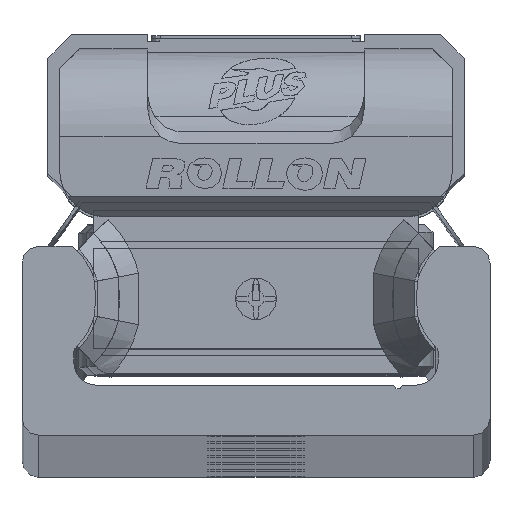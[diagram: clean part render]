
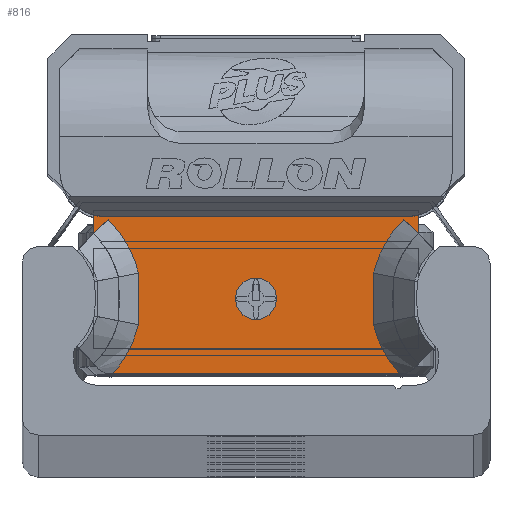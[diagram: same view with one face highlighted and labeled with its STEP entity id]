
A CAD part, top view. The second image highlights one B-rep face of the part: STEP entity #816.
In plain terms, the highlighted planar face has unit normal (0, 0, 1) as drawn and (0, 0, -1) by its records, which use the part's own axes.
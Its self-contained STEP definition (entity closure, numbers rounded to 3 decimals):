
#816 = ADVANCED_FACE( '', ( #2205, #2206 ), #2207, .F. );
#2205 = FACE_BOUND( '', #4452, .T. );
#2206 = FACE_OUTER_BOUND( '', #4453, .T. );
#2207 = PLANE( '', #4454 );
#4452 = EDGE_LOOP( '', ( #6809 ) );
#4453 = EDGE_LOOP( '', ( #6810, #6811, #6812, #6813, #6814, #6815, #6816, #6817, #6818, #6819, #6820, #6821, #6822, #6823 ) );
#4454 = AXIS2_PLACEMENT_3D( '', #6824, #6825, #6826 );
#6809 = ORIENTED_EDGE( '', *, *, #12511, .T. );
#6810 = ORIENTED_EDGE( '', *, *, #12512, .F. );
#6811 = ORIENTED_EDGE( '', *, *, #12513, .T. );
#6812 = ORIENTED_EDGE( '', *, *, #12514, .T. );
#6813 = ORIENTED_EDGE( '', *, *, #12515, .T. );
#6814 = ORIENTED_EDGE( '', *, *, #12516, .T. );
#6815 = ORIENTED_EDGE( '', *, *, #12517, .T. );
#6816 = ORIENTED_EDGE( '', *, *, #12518, .T. );
#6817 = ORIENTED_EDGE( '', *, *, #12519, .T. );
#6818 = ORIENTED_EDGE( '', *, *, #12520, .T. );
#6819 = ORIENTED_EDGE( '', *, *, #12521, .T. );
#6820 = ORIENTED_EDGE( '', *, *, #12522, .T. );
#6821 = ORIENTED_EDGE( '', *, *, #12480, .T. );
#6822 = ORIENTED_EDGE( '', *, *, #12523, .T. );
#6823 = ORIENTED_EDGE( '', *, *, #12524, .T. );
#6824 = CARTESIAN_POINT( '', ( 9.7, 4.89, -10.6 ) );
#6825 = DIRECTION( '', ( 0., 0., 1. ) );
#6826 = DIRECTION( '', ( 1., 0., 0. ) );
#12480 = EDGE_CURVE( '', #14697, #14695, #14698, .T. );
#12511 = EDGE_CURVE( '', #14752, #14752, #14753, .T. );
#12512 = EDGE_CURVE( '', #14754, #14755, #14756, .T. );
#12513 = EDGE_CURVE( '', #14754, #14757, #14758, .T. );
#12514 = EDGE_CURVE( '', #14757, #14759, #14760, .T. );
#12515 = EDGE_CURVE( '', #14759, #14761, #14762, .T. );
#12516 = EDGE_CURVE( '', #14761, #14763, #14764, .T. );
#12517 = EDGE_CURVE( '', #14763, #14765, #14766, .T. );
#12518 = EDGE_CURVE( '', #14765, #14767, #14768, .T. );
#12519 = EDGE_CURVE( '', #14767, #14769, #14770, .T. );
#12520 = EDGE_CURVE( '', #14769, #14771, #14772, .T. );
#12521 = EDGE_CURVE( '', #14771, #14773, #14774, .T. );
#12522 = EDGE_CURVE( '', #14773, #14697, #14775, .T. );
#12523 = EDGE_CURVE( '', #14695, #14776, #14777, .T. );
#12524 = EDGE_CURVE( '', #14776, #14755, #14778, .T. );
#14695 = VERTEX_POINT( '', #17991 );
#14697 = VERTEX_POINT( '', #17994 );
#14698 = B_SPLINE_CURVE_WITH_KNOTS( '', 2, ( #17995, #17996, #17997 ), .UNSPECIFIED., .F., .F., ( 3, 3 ), ( 0., 1. ), .UNSPECIFIED. );
#14752 = VERTEX_POINT( '', #18081 );
#14753 = CIRCLE( '', #18082, 1.25 );
#14754 = VERTEX_POINT( '', #18083 );
#14755 = VERTEX_POINT( '', #18084 );
#14756 = LINE( '', #18085, #18086 );
#14757 = VERTEX_POINT( '', #18087 );
#14758 = CIRCLE( '', #18088, 2.8 );
#14759 = VERTEX_POINT( '', #18089 );
#14760 = LINE( '', #18090, #18091 );
#14761 = VERTEX_POINT( '', #18092 );
#14762 = CIRCLE( '', #18093, 2.8 );
#14763 = VERTEX_POINT( '', #18094 );
#14764 = LINE( '', #18095, #18096 );
#14765 = VERTEX_POINT( '', #18097 );
#14766 = LINE( '', #18098, #18099 );
#14767 = VERTEX_POINT( '', #18100 );
#14768 = B_SPLINE_CURVE_WITH_KNOTS( '', 2, ( #18101, #18102, #18103, #18104, #18105 ), .UNSPECIFIED., .F., .F., ( 3, 2, 3 ), ( 0., 0.5, 1. ), .UNSPECIFIED. );
#14769 = VERTEX_POINT( '', #18106 );
#14770 = B_SPLINE_CURVE_WITH_KNOTS( '', 2, ( #18107, #18108, #18109 ), .UNSPECIFIED., .F., .F., ( 3, 3 ), ( 0., 1. ), .UNSPECIFIED. );
#14771 = VERTEX_POINT( '', #18110 );
#14772 = B_SPLINE_CURVE_WITH_KNOTS( '', 2, ( #18111, #18112, #18113 ), .UNSPECIFIED., .F., .F., ( 3, 3 ), ( 0., 1. ), .UNSPECIFIED. );
#14773 = VERTEX_POINT( '', #18114 );
#14774 = LINE( '', #18115, #18116 );
#14775 = B_SPLINE_CURVE_WITH_KNOTS( '', 2, ( #18117, #18118, #18119 ), .UNSPECIFIED., .F., .F., ( 3, 3 ), ( 0.1, 1. ), .UNSPECIFIED. );
#14776 = VERTEX_POINT( '', #18120 );
#14777 = B_SPLINE_CURVE_WITH_KNOTS( '', 2, ( #18121, #18122, #18123 ), .UNSPECIFIED., .F., .F., ( 3, 3 ), ( 0., 1. ), .UNSPECIFIED. );
#14778 = LINE( '', #18124, #18125 );
#17991 = CARTESIAN_POINT( '', ( -7.031, 1.144, -10.6 ) );
#17994 = CARTESIAN_POINT( '', ( -7.031, -1.944, -10.6 ) );
#17995 = CARTESIAN_POINT( '', ( -7.031, -1.944, -10.6 ) );
#17996 = CARTESIAN_POINT( '', ( -6.929, -0.4, -10.6 ) );
#17997 = CARTESIAN_POINT( '', ( -7.031, 1.144, -10.6 ) );
#18081 = CARTESIAN_POINT( '', ( 1.25, -0.39, -10.6 ) );
#18082 = AXIS2_PLACEMENT_3D( '', #22710, #22711, #22712 );
#18083 = CARTESIAN_POINT( '', ( -9.7, 4.612, -10.6 ) );
#18084 = CARTESIAN_POINT( '', ( -9.7, 3.494, -10.6 ) );
#18085 = CARTESIAN_POINT( '', ( -9.7, 4.89, -10.6 ) );
#18086 = VECTOR( '', #22713, 1000. );
#18087 = CARTESIAN_POINT( '', ( -8.95, 4.51, -10.6 ) );
#18088 = AXIS2_PLACEMENT_3D( '', #22714, #22715, #22716 );
#18089 = CARTESIAN_POINT( '', ( 8.95, 4.51, -10.6 ) );
#18090 = CARTESIAN_POINT( '', ( 9.7, 4.51, -10.6 ) );
#18091 = VECTOR( '', #22717, 1000. );
#18092 = CARTESIAN_POINT( '', ( 9.7, 4.612, -10.6 ) );
#18093 = AXIS2_PLACEMENT_3D( '', #22718, #22719, #22720 );
#18094 = CARTESIAN_POINT( '', ( 9.7, 3.497, -10.6 ) );
#18095 = CARTESIAN_POINT( '', ( 9.7, 4.89, -10.6 ) );
#18096 = VECTOR( '', #22721, 1000. );
#18097 = CARTESIAN_POINT( '', ( 8.853, 4.366, -10.6 ) );
#18098 = CARTESIAN_POINT( '', ( 9.7, 3.501, -10.6 ) );
#18099 = VECTOR( '', #22722, 1000. );
#18100 = CARTESIAN_POINT( '', ( 7.031, 1.144, -10.6 ) );
#18101 = CARTESIAN_POINT( '', ( 8.853, 4.366, -10.6 ) );
#18102 = CARTESIAN_POINT( '', ( 8.182, 3.708, -10.6 ) );
#18103 = CARTESIAN_POINT( '', ( 7.715, 2.883, -10.6 ) );
#18104 = CARTESIAN_POINT( '', ( 7.249, 2.058, -10.6 ) );
#18105 = CARTESIAN_POINT( '', ( 7.031, 1.144, -10.6 ) );
#18106 = CARTESIAN_POINT( '', ( 7.031, -1.944, -10.6 ) );
#18107 = CARTESIAN_POINT( '', ( 7.031, 1.144, -10.6 ) );
#18108 = CARTESIAN_POINT( '', ( 6.929, -0.4, -10.6 ) );
#18109 = CARTESIAN_POINT( '', ( 7.031, -1.944, -10.6 ) );
#18110 = CARTESIAN_POINT( '', ( 8.59, -4.893, -10.6 ) );
#18111 = CARTESIAN_POINT( '', ( 7.031, -1.944, -10.6 ) );
#18112 = CARTESIAN_POINT( '', ( 7.429, -3.615, -10.6 ) );
#18113 = CARTESIAN_POINT( '', ( 8.588, -4.89, -10.6 ) );
#18114 = CARTESIAN_POINT( '', ( -8.59, -4.893, -10.6 ) );
#18115 = CARTESIAN_POINT( '', ( 9.7, -4.89, -10.6 ) );
#18116 = VECTOR( '', #22723, 1000. );
#18117 = CARTESIAN_POINT( '', ( -8.587, -4.89, -10.6 ) );
#18118 = CARTESIAN_POINT( '', ( -7.432, -3.63, -10.6 ) );
#18119 = CARTESIAN_POINT( '', ( -7.031, -1.944, -10.6 ) );
#18120 = CARTESIAN_POINT( '', ( -8.853, 4.366, -10.6 ) );
#18121 = CARTESIAN_POINT( '', ( -7.031, 1.144, -10.6 ) );
#18122 = CARTESIAN_POINT( '', ( -7.477, 3.018, -10.6 ) );
#18123 = CARTESIAN_POINT( '', ( -8.853, 4.366, -10.6 ) );
#18124 = CARTESIAN_POINT( '', ( -8.853, 4.366, -10.6 ) );
#18125 = VECTOR( '', #22724, 1000. );
#22710 = CARTESIAN_POINT( '', ( 0., -0.39, -10.6 ) );
#22711 = DIRECTION( '', ( 0., 0., 1. ) );
#22712 = DIRECTION( '', ( 1., 0., 0. ) );
#22713 = DIRECTION( '', ( 0., -1., 0. ) );
#22714 = CARTESIAN_POINT( '', ( -8.95, 7.31, -10.6 ) );
#22715 = DIRECTION( '', ( 0., 0., 1. ) );
#22716 = DIRECTION( '', ( 1., 0., 0. ) );
#22717 = DIRECTION( '', ( 1., 0., 0. ) );
#22718 = CARTESIAN_POINT( '', ( 8.95, 7.31, -10.6 ) );
#22719 = DIRECTION( '', ( 0., 0., 1. ) );
#22720 = DIRECTION( '', ( 1., 0., 0. ) );
#22721 = DIRECTION( '', ( 0., -1., 0. ) );
#22722 = DIRECTION( '', ( -0.7, 0.714, 0. ) );
#22723 = DIRECTION( '', ( -1., 0., 0. ) );
#22724 = DIRECTION( '', ( -0.7, -0.714, 0. ) );
